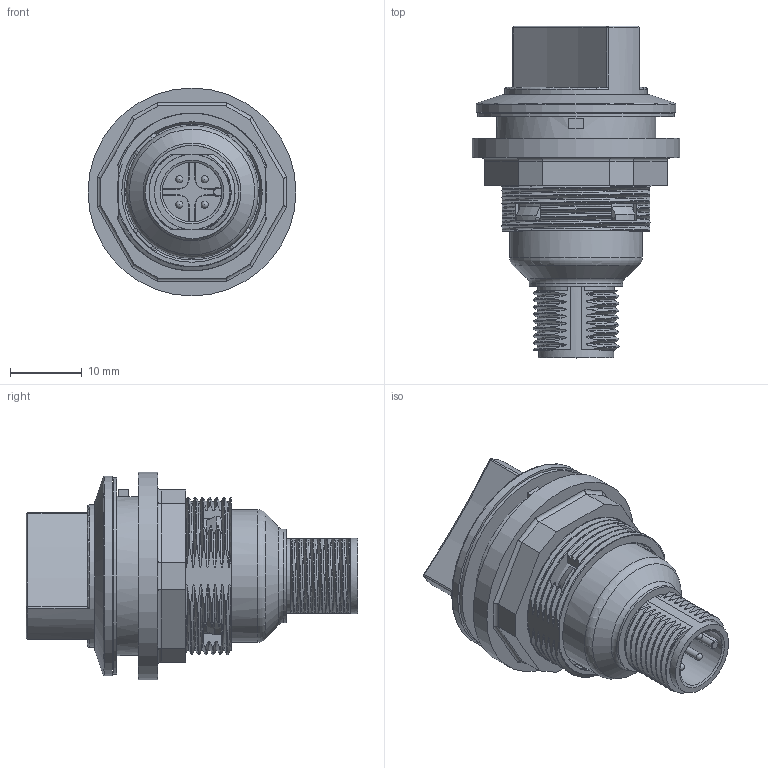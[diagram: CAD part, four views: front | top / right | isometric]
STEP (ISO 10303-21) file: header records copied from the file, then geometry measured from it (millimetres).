
FILE_DESCRIPTION(/* description */ (''),/* implementation_level */ '2;1');
FILE_NAME(/* name */ 'SVAWALI_C005_vereinfacht.stp',/* time_stamp */ '2024-07-02T09:19:36+02:00',/* author */ ('Sz'),/* organization */ (''),/* preprocessor_version */ 'ST-DEVELOPER v19.2',/* originating_system */ 'Autodesk Inventor 2023',/* authorisation */ '');
FILE_SCHEMA (('AUTOMOTIVE_DESIGN { 1 0 10303 214 3 1 1 }'));
Products named in the file (1): Bauteil6604
Bounding box: 29 x 46.3 x 29 mm (x, y, z)
Volume: 15623.6 mm3; surface area: 9925.3 mm2
Topology: 6 solids, 7 shells, 475 faces, 1323 edges, 864 vertices
Faces by surface type: bspline 162, cylinder 146, plane 115, cone 23, torus 21, sphere 8
Full cylindrical faces by diameter (mm): 1 x4, 8.3 x1, 10.5 x1, 13 x1, 18.5 x1, 19.85 x1, 20.05 x1, 20.65 x1, 20.917 x1, 22 x1, 22.2 x1, 22.6 x1, 25.1 x2, 25.35 x1, 27.4 x1, 27.9 x1, 29 x1
Entity records: 34978 total; most frequent: CARTESIAN_POINT 23711, ORIENTED_EDGE 2630, DIRECTION 1585, EDGE_CURVE 1315, VERTEX_POINT 864, B_SPLINE_CURVE_WITH_KNOTS 613, AXIS2_PLACEMENT_3D 581, EDGE_LOOP 501
